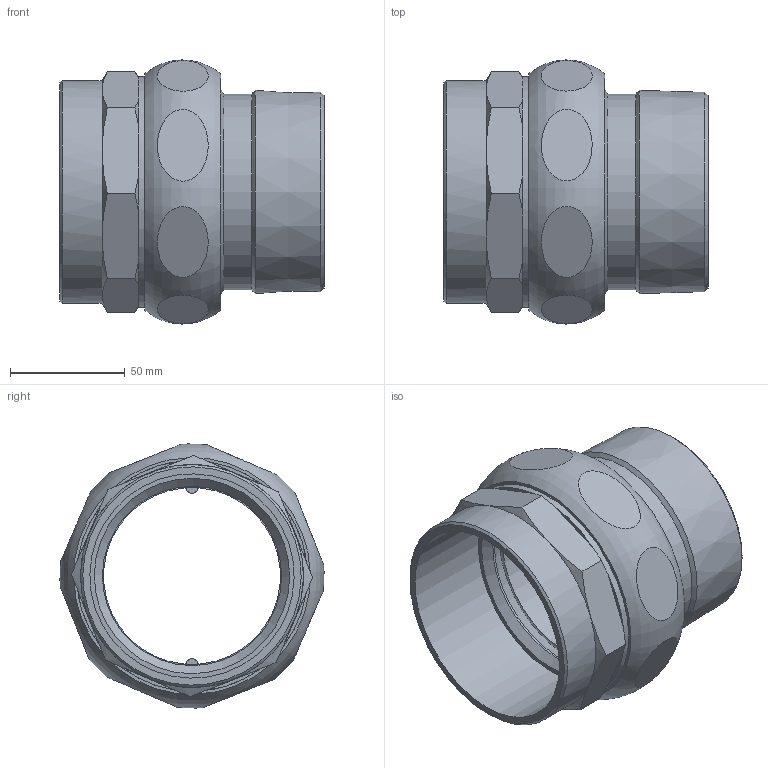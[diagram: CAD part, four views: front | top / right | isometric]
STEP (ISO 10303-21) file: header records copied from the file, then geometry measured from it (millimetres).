
FILE_DESCRIPTION(/* description */ (''),/* implementation_level */ '2;1');
FILE_NAME(/* name */ '\\LG50001\SANHA_Legnica\Engineering\Public\RYSUNKI\SANHA POLSKA\4341g\inventor\14341g_89-3(1).stp',/* time_stamp */ '2016-12-09T12:22:47+01:00',/* author */ ('haldrzynski'),/* organization */ (''),/* preprocessor_version */ 'ST-DEVELOPER v15.6',/* originating_system */ 'Autodesk Inventor 2015',/* authorisation */ '');
FILE_SCHEMA (('AUTOMOTIVE_DESIGN { 1 0 10303 214 3 1 1 }'));
Length unit declared in the file: millimetre
Products named in the file (4): 14374_312(1); 14380_89-312(1); 14382_3-312(4); 14341g_89-3(1)
Assembly tree (3 placements, depth 2):
  14341g_89-3(1)
    14374_312(1)
    14380_89-312(1)
    14382_3-312(4)
Bounding box: 114.95 x 114.94 x 114.94 mm (x, y, z)
Volume: 262672.6 mm3; surface area: 99928.1 mm2
Topology: 3 solids, 3 shells, 80 faces, 160 edges, 96 vertices
Faces by surface type: plane 35, cone 25, cylinder 18, torus 2
Full cylindrical faces by diameter (mm): 78 x1, 85 x1, 88.9 x1, 89 x1, 91.5 x1, 93 x1, 96.5 x1, 97 x1, 97.372 x1, 100.33 x1
Entity records: 2624 total; most frequent: CARTESIAN_POINT 1025, DIRECTION 338, ORIENTED_EDGE 268, AXIS2_PLACEMENT_3D 157, EDGE_CURVE 134, EDGE_LOOP 118, VERTEX_POINT 92, FACE_OUTER_BOUND 80
